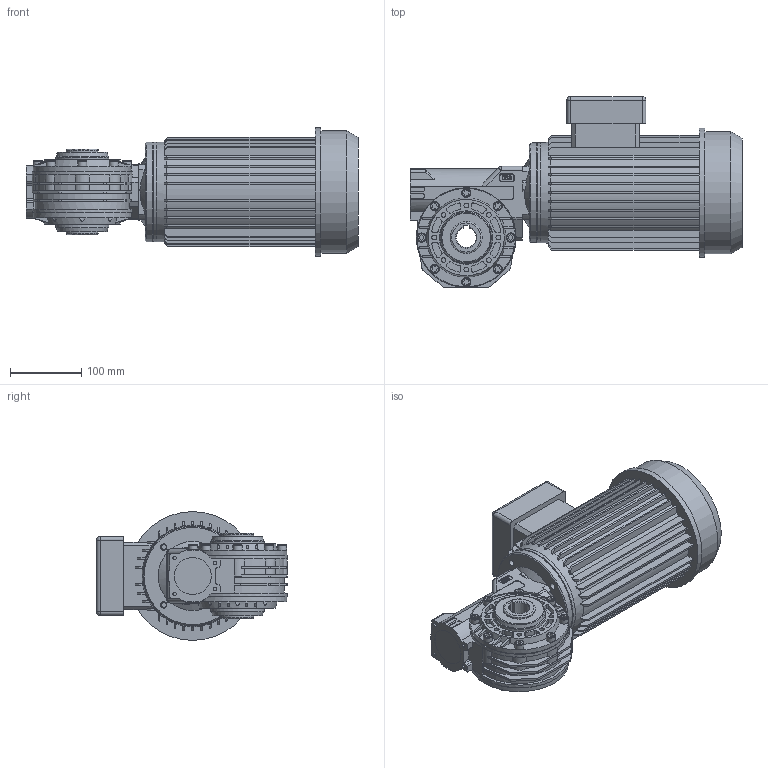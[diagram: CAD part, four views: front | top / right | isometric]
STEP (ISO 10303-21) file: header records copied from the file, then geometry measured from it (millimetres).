
FILE_DESCRIPTION( ( 'Unknown' ), '1' );
FILE_NAME( 'E:/services/configuratordownloads/customers/HYDROMEC/VSF/download/DFB58BF0F8BCEF4693596DA192DB57/STEP/DFB58BF0F8BCEF4693596DA192DB57.3d.stp', 'Unknown', ( 'Unknown' ), ( 'Unknown' ), 'PSStep 10.1', 'Unknown', ' ' );
FILE_SCHEMA( ( 'AUTOMOTIVE_DESIGN { 1 0 10303 214 1 1 1 1 }' ) );
Length unit declared in the file: millimetre
Products named in the file (1): 0638800
Bounding box: 466.5 x 268 x 181 mm (x, y, z)
Volume: 7749537.9 mm3; surface area: 503083.6 mm2
Topology: 1 solids, 5 shells, 1062 faces, 2794 edges, 1837 vertices
Faces by surface type: plane 666, cylinder 310, cone 37, torus 21, extrusion 20, sphere 6, bspline 2
Full cylindrical faces by diameter (mm): 4.917 x4, 6.647 x20, 6.8 x8, 9 x4, 12.8 x8, 35 x1, 35.5 x1, 45 x2, 47 x2, 52 x1, 75 x2, 95 x1, 138 x1, 140 x1, 172 x1, 181 x1
Entity records: 42050 total; most frequent: CARTESIAN_POINT 7271, DIRECTION 5559, ORIENTED_EDGE 5322, EDGE_CURVE 2661, AXIS2_PLACEMENT_3D 1964, VERTEX_POINT 1801, VECTOR 1631, LINE 1611
